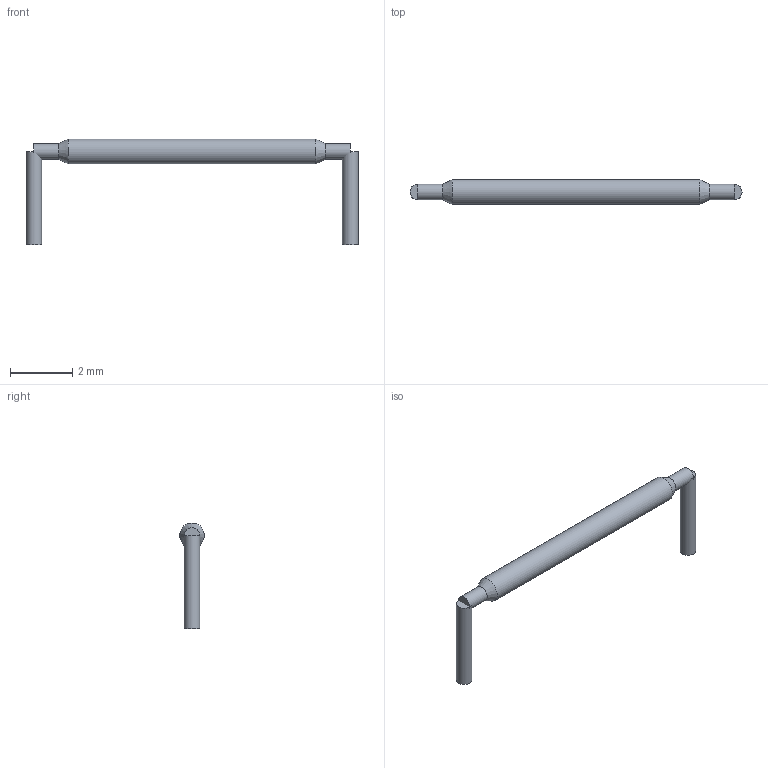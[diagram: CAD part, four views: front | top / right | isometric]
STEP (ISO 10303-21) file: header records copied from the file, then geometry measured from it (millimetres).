
FILE_DESCRIPTION(('FreeCAD Model'),'2;1');
FILE_NAME('Open CASCADE Shape Model','2026-04-07T19:07:43',('FreeCAD'),( 'FreeCAD'),'Open CASCADE STEP processor 7.8','FreeCAD','Unknown');
FILE_SCHEMA(('AUTOMOTIVE_DESIGN { 1 0 10303 214 1 1 1 1 }'));
Length unit declared in the file: millimetre
Products named in the file (1): Open CASCADE STEP translator 7.8 4
Bounding box: 10.66 x 0.8 x 3.4 mm (x, y, z)
Volume: 7.4 mm3; surface area: 48.3 mm2
Topology: 4 solids, 4 shells, 14 faces, 16 edges, 10 vertices
Faces by surface type: plane 8, cylinder 4, cone 2
Full cylindrical faces by diameter (mm): 0.5 x3, 0.8 x1
Entity records: 287 total; most frequent: DIRECTION 56, CARTESIAN_POINT 41, ORIENTED_EDGE 32, AXIS2_PLACEMENT_3D 25, EDGE_CURVE 16, ADVANCED_FACE 14, FACE_BOUND 14, EDGE_LOOP 14
